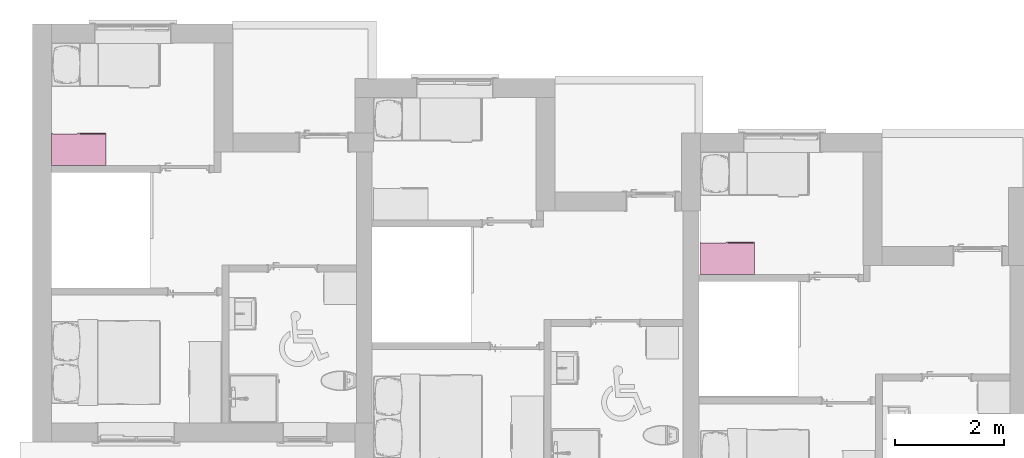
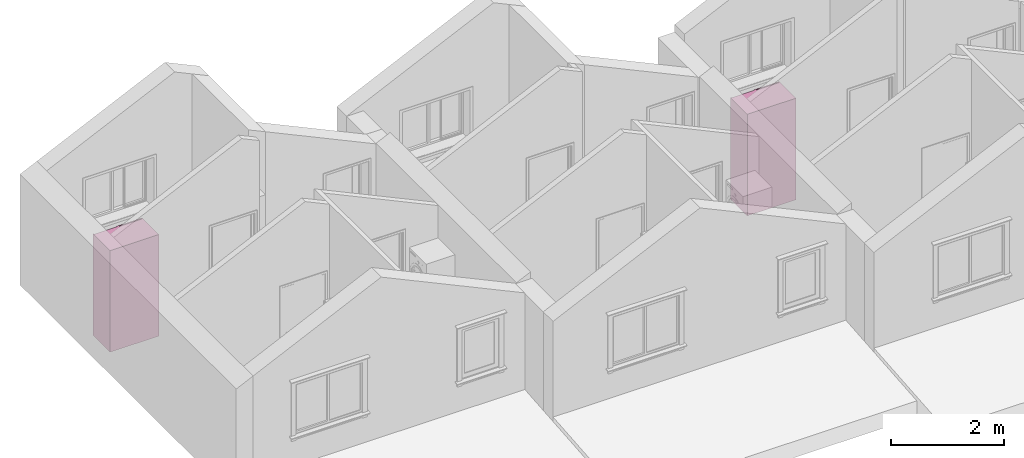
# One storey, part 38 of 44: 2 furnishings.
"""IFC2X3 building model written with IfcOpenShell, lengths in millimetres."""

from ifc_helpers import new_model, entity, si_unit, converted_unit, direction, frame, frame_2d, origin, place, context, subcontext, project, spatial, polyline, rectangle, outline, extrude, source, transform, mapped, material, type_object, type_shapes, element, save


model = new_model("IFC2X3")

# Units and contexts
model_context = context("Model", 3, precision=0.01, world=origin(), true_north=direction((0.0, 1.0)))
body_context = subcontext(model_context, "Body", "Model", "MODEL_VIEW")
ifc_project = project(units=[si_unit("LENGTHUNIT", "METRE", prefix="MILLI"), si_unit("AREAUNIT", "SQUARE_METRE"), si_unit("VOLUMEUNIT", "CUBIC_METRE"), converted_unit("PLANEANGLEUNIT", "DEGREE", entity("IfcPlaneAngleMeasure", 0.017453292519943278), si_unit("PLANEANGLEUNIT", "RADIAN"), dimensions=[0, 0, 0, 0, 0, 0, 0])], contexts=[model_context])

# Site, building, storey, space
site_placement = place(None, origin())
site = spatial("IfcSite", under=ifc_project, at=site_placement, Name="Default", CompositionType="ELEMENT")
building_placement = place(site_placement, origin())
building = spatial("IfcBuilding", under=site, at=building_placement, CompositionType="ELEMENT")
storey_placement = place(building_placement, frame((0.0, 0.0, 2681.0)))
storey = spatial("IfcBuildingStorey", under=building, at=storey_placement, Name="Et. 2", CompositionType="ELEMENT", Elevation=2681.0)
space_1_placement = place(storey_placement, origin())
space_1 = spatial("IfcSpace", under=storey, at=space_1_placement, Name="201", CompositionType="ELEMENT", InteriorOrExteriorSpace="INTERNAL")

# Furnishing
ifc_material = material(Name="Møbler - Hvit")
furniture_type = type_object("IfcFurnitureType", Name="Focus Garderobeskap - Skyvedører 2 slette:100x60x220", AssemblyPlace="NOTDEFINED", material=ifc_material)
shared_shape = source(origin(), body_context, "Body", "SweptSolid", [
    extrude(rectangle(XDim=16.000000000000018, YDim=504.0000000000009, at=frame_2d((0.0, 4.263256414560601e-14), x_axis=(1.0, 0.0))), frame((232.0, 292.0, 10.0), z_axis=(0.0, 0.0, 1.0), x_axis=(0.0, 1.0, 0.0)), (0.0, 0.0, 1.0), 2189.9999999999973),
    extrude(rectangle(XDim=16.000000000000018, YDim=504.00000000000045, at=frame_2d((0.0, 4.263256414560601e-14), x_axis=(1.0, 0.0))), frame((-232.0, 276.0, 10.0), z_axis=(0.0, 0.0, 1.0), x_axis=(0.0, 1.0, 0.0)), (0.0, 0.0, 1.0), 2189.9999999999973),
    extrude(outline(polyline([(-442.0, -500.0), (158.0, -500.0), (158.0, -484.0), (126.0, -484.0), (126.0, 484.0), (158.0, 484.0), (158.0, 500.0), (-442.0, 500.0), (-442.0, -500.0)])), frame((0.0, 142.0, 0.0), z_axis=(0.0, 0.0, 1.0), x_axis=(0.0, 1.0, 0.0)), (0.0, 0.0, 1.0), 2200.0000000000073),
])
type_shapes(furniture_type, [shared_shape])
furnishing_1_placement = place(space_1_placement, frame((10937.009586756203, 16782.18095768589, 0.0)))
element("IfcFurnishingElement", 1, at=furnishing_1_placement, inside=space_1, type_object=furniture_type, material=ifc_material, Name="Focus Garderobeskap - Skyvedører 2 slette:100x60x220", context=body_context, shape_type="MappedRepresentation", body=[
    mapped(shared_shape, transform((0.0, 0.0, 0.0), scale=1.0)),
])

# Space
space_2_placement = place(storey_placement, origin())
space_2 = spatial("IfcSpace", under=storey, at=space_2_placement, Name="209", CompositionType="ELEMENT", InteriorOrExteriorSpace="INTERNAL")

# Furnishing
furnishing_2_placement = place(space_2_placement, frame((22838.009586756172, 14782.180957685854, 0.0)))
element("IfcFurnishingElement", 2, at=furnishing_2_placement, inside=space_2, type_object=furniture_type, material=ifc_material, Name="Focus Garderobeskap - Skyvedører 2 slette:100x60x220", context=body_context, shape_type="MappedRepresentation", body=[
    mapped(shared_shape, transform((0.0, 0.0, 0.0), scale=1.0)),
])

save(model, "model.ifc")
